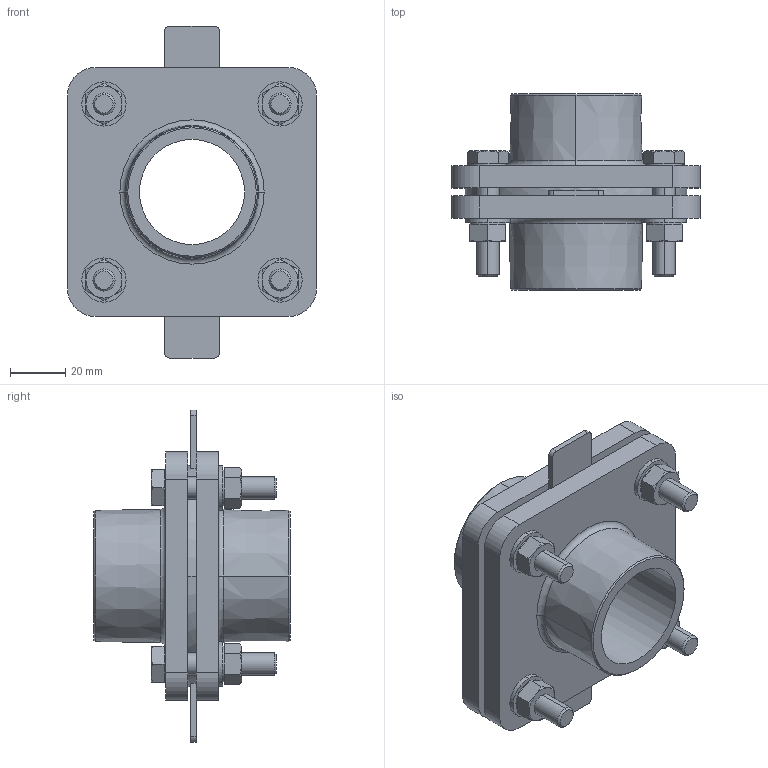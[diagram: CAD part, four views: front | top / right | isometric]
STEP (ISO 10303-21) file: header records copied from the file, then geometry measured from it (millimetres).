
FILE_DESCRIPTION (( 'STEP AP214' ), '1' );
FILE_NAME ('KP_F16-54MM.step', '2012-09-24T15:01:38', ( '' ), ( '' ), 'SwSTEP 2.0', 'SolidWorks 2012', '' );
FILE_SCHEMA (( 'AUTOMOTIVE_DESIGN' ));
Length unit declared in the file: millimetre
Products named in the file (1): KP_F16-54MM
Bounding box: 90 x 71 x 120 mm (x, y, z)
Volume: 166275.8 mm3; surface area: 68664.3 mm2
Topology: 15 solids, 15 shells, 332 faces, 728 edges, 432 vertices
Faces by surface type: plane 148, cylinder 92, cone 80, torus 12
Entity records: 13252 total; most frequent: CARTESIAN_POINT 2037, DIRECTION 1618, ORIENTED_EDGE 1456, EDGE_CURVE 728, AXIS2_PLACEMENT_3D 653, VERTEX_POINT 432, EDGE_LOOP 376, UNCERTAINTY_MEASURE_WITH_UNIT 349
